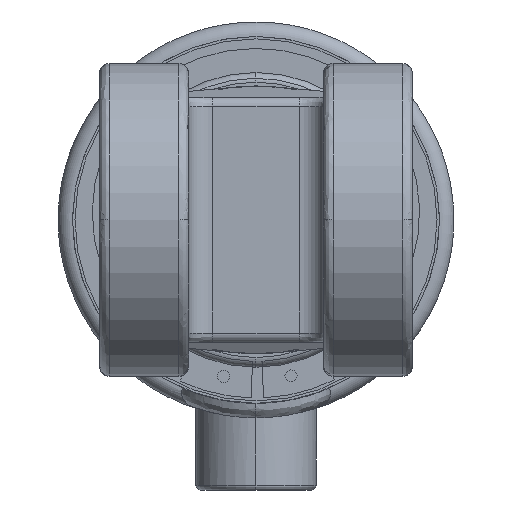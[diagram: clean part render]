
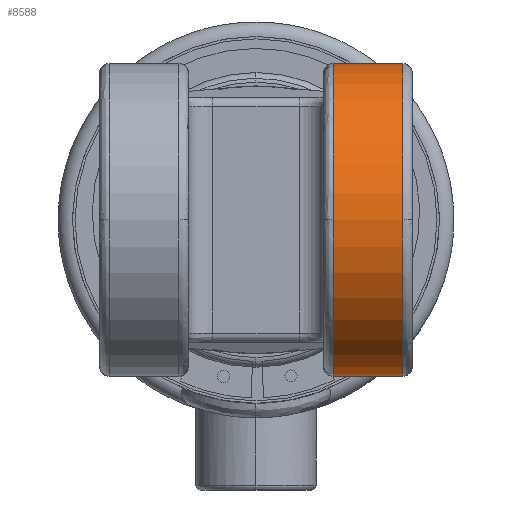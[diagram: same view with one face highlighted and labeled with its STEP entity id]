
A CAD part, left-side view. The second image highlights one B-rep face of the part: STEP entity #8588.
In plain terms, the highlighted cylindrical face has radius 32.5 mm (diameter 65 mm), a partial arc.
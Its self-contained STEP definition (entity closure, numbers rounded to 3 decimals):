
#34 = CARTESIAN_POINT ( 'NONE',  ( 44.795, -16., 32.5 ) ) ;
#291 = AXIS2_PLACEMENT_3D ( 'NONE', #3656, #9801, #4537 ) ;
#338 = VERTEX_POINT ( 'NONE', #7443 ) ;
#412 = VECTOR ( 'NONE', #5234, 1000. ) ;
#489 = EDGE_CURVE ( 'NONE', #3793, #6413, #10247, .T. ) ;
#504 = DIRECTION ( 'NONE',  ( 0., 0., 1. ) ) ;
#507 = VERTEX_POINT ( 'NONE', #11424 ) ;
#651 = VECTOR ( 'NONE', #5509, 1000. ) ;
#1362 = CIRCLE ( 'NONE', #291, 32.5 ) ;
#1526 = EDGE_CURVE ( 'NONE', #507, #3793, #2937, .T. ) ;
#1716 = CARTESIAN_POINT ( 'NONE',  ( 44.795, -30.5, 0. ) ) ;
#1732 = EDGE_LOOP ( 'NONE', ( #7739, #2934, #3897, #7328, #7867, #6489 ) ) ;
#2593 = DIRECTION ( 'NONE',  ( 0., 1., 0. ) ) ;
#2737 = VERTEX_POINT ( 'NONE', #34 ) ;
#2781 = AXIS2_PLACEMENT_3D ( 'NONE', #7576, #3188, #504 ) ;
#2934 = ORIENTED_EDGE ( 'NONE', *, *, #489, .T. ) ;
#2937 = CIRCLE ( 'NONE', #4679, 32.5 ) ;
#2984 = CARTESIAN_POINT ( 'NONE',  ( 44.795, -16., -32.5 ) ) ;
#3188 = DIRECTION ( 'NONE',  ( 0., 1., 0. ) ) ;
#3288 = FACE_OUTER_BOUND ( 'NONE', #1732, .T. ) ;
#3521 = DIRECTION ( 'NONE',  ( 0., 0., 1. ) ) ;
#3553 = CARTESIAN_POINT ( 'NONE',  ( 44.795, -30.5, 0. ) ) ;
#3656 = CARTESIAN_POINT ( 'NONE',  ( 44.795, -16., 0. ) ) ;
#3752 = CARTESIAN_POINT ( 'NONE',  ( 44.795, -32.5, -32.5 ) ) ;
#3793 = VERTEX_POINT ( 'NONE', #6687 ) ;
#3897 = ORIENTED_EDGE ( 'NONE', *, *, #6833, .T. ) ;
#4234 = CARTESIAN_POINT ( 'NONE',  ( 44.795, -16., 0. ) ) ;
#4439 = DIRECTION ( 'NONE',  ( 0., 0., 1. ) ) ;
#4537 = DIRECTION ( 'NONE',  ( 1., 0., 0. ) ) ;
#4679 = AXIS2_PLACEMENT_3D ( 'NONE', #3553, #9702, #4439 ) ;
#4996 = EDGE_CURVE ( 'NONE', #507, #2737, #9805, .T. ) ;
#5114 = DIRECTION ( 'NONE',  ( 1., 0., 0. ) ) ;
#5234 = DIRECTION ( 'NONE',  ( 0., 1., 0. ) ) ;
#5348 = CYLINDRICAL_SURFACE ( 'NONE', #2781, 32.5 ) ;
#5509 = DIRECTION ( 'NONE',  ( 0., 1., 0. ) ) ;
#6000 = CARTESIAN_POINT ( 'NONE',  ( 44.795, -30.5, -32.5 ) ) ;
#6331 = CIRCLE ( 'NONE', #6961, 32.5 ) ;
#6413 = VERTEX_POINT ( 'NONE', #6000 ) ;
#6489 = ORIENTED_EDGE ( 'NONE', *, *, #4996, .F. ) ;
#6687 = CARTESIAN_POINT ( 'NONE',  ( 77.295, -30.5, 0. ) ) ;
#6833 = EDGE_CURVE ( 'NONE', #6413, #8837, #7707, .T. ) ;
#6961 = AXIS2_PLACEMENT_3D ( 'NONE', #4234, #10399, #5114 ) ;
#7328 = ORIENTED_EDGE ( 'NONE', *, *, #11358, .F. ) ;
#7443 = CARTESIAN_POINT ( 'NONE',  ( 77.295, -16., 0. ) ) ;
#7576 = CARTESIAN_POINT ( 'NONE',  ( 44.795, -32.5, 0. ) ) ;
#7707 = LINE ( 'NONE', #3752, #651 ) ;
#7739 = ORIENTED_EDGE ( 'NONE', *, *, #1526, .T. ) ;
#7867 = ORIENTED_EDGE ( 'NONE', *, *, #10401, .F. ) ;
#8588 = ADVANCED_FACE ( 'NONE', ( #3288 ), #5348, .T. ) ;
#8837 = VERTEX_POINT ( 'NONE', #2984 ) ;
#9702 = DIRECTION ( 'NONE',  ( 0., 1., 0. ) ) ;
#9801 = DIRECTION ( 'NONE',  ( 0., 1., 0. ) ) ;
#9805 = LINE ( 'NONE', #10524, #412 ) ;
#10247 = CIRCLE ( 'NONE', #11458, 32.5 ) ;
#10399 = DIRECTION ( 'NONE',  ( 0., 1., 0. ) ) ;
#10401 = EDGE_CURVE ( 'NONE', #2737, #338, #1362, .T. ) ;
#10524 = CARTESIAN_POINT ( 'NONE',  ( 44.795, -32.5, 32.5 ) ) ;
#11358 = EDGE_CURVE ( 'NONE', #338, #8837, #6331, .T. ) ;
#11424 = CARTESIAN_POINT ( 'NONE',  ( 44.795, -30.5, 32.5 ) ) ;
#11458 = AXIS2_PLACEMENT_3D ( 'NONE', #1716, #2593, #3521 ) ;
